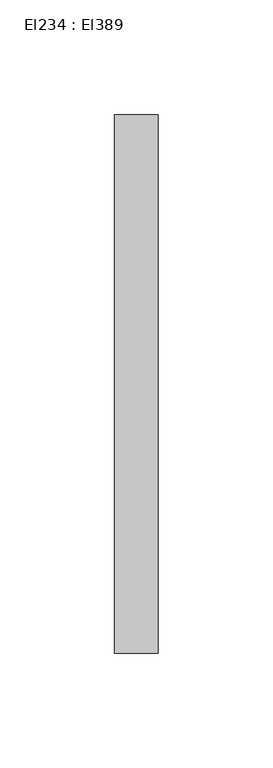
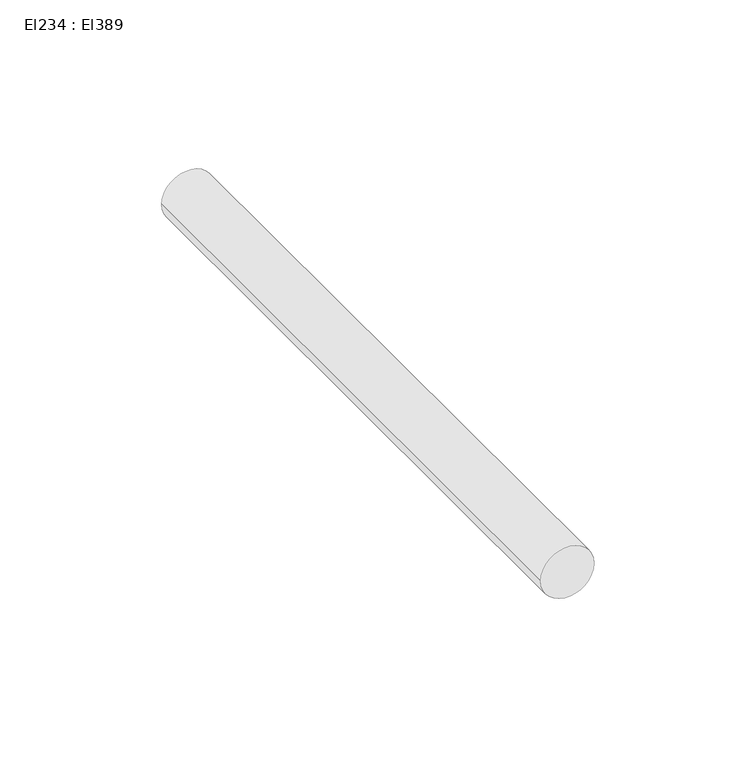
"""IFC4 building model written with IfcOpenShell, lengths in millimetres: cable carrier segment geometry, El234 : El389."""

import ifcopenshell
import ifcopenshell.guid

model = None  # the IFC model being written
_history = None  # IfcOwnerHistory: only IFC2X3 demands one
_inside = {}  # id of a spatial element -> (the spatial element, [elements in it])
_under = {}  # id of a project, library or spatial element -> (it, [spatial elements below it])
_declared = {}  # id of a project -> (the project, [libraries it declares])
_typed = {}  # id of a type object -> (the type object, [elements of that type])
_made_of = {}  # id of a material, layer set ... -> (it, [elements and type objects made of it])


def new_model(schema):
    """Start an empty IFC model of exactly this schema.

    Asked for "IFC4X3", IfcOpenShell would pick the latest addendum, in which some entities
    have other attributes; the version numbers below select the first issue.
    IFC2X3 requires an IfcOwnerHistory on every rooted entity: one is made here for all.
    """
    global model, _history
    if schema == "IFC4X3":
        model = ifcopenshell.file(schema_version=(4, 3, 0, 0))
    else:
        model = ifcopenshell.file(schema=schema)
    _inside.clear()
    _under.clear()
    _declared.clear()
    _typed.clear()
    _made_of.clear()
    _history = None
    if model.schema == "IFC2X3":
        org = make("IfcOrganization", Name="unknown")
        user = make(
            "IfcPersonAndOrganization",
            ThePerson=make("IfcPerson", FamilyName="unknown"),
            TheOrganization=org,
        )
        app = make(
            "IfcApplication",
            ApplicationDeveloper=org,
            Version="unknown",
            ApplicationFullName="unknown",
            ApplicationIdentifier="unknown",
        )
        _history = make(
            "IfcOwnerHistory",
            OwningUser=user,
            OwningApplication=app,
            ChangeAction="ADDED",
            CreationDate=0,
        )
    return model


def make(cls, **values):
    """One entity of the class cls with the attributes given. An attribute that is None is left unset."""
    return model.create_entity(
        cls, **{name: value for name, value in values.items() if value is not None}
    )


def rooted(cls, **values):
    """An entity with a GlobalId (a new one), such as an element, a storey or a relation."""
    return make(cls, GlobalId=ifcopenshell.guid.new(), OwnerHistory=_history, **values)


def si_unit(unit_type, name, prefix=None):
    """IfcSIUnit, for example si_unit("LENGTHUNIT", "METRE", prefix="MILLI")."""
    return make("IfcSIUnit", UnitType=unit_type, Prefix=prefix, Name=name)


def assignment(units):
    """IfcUnitAssignment: the units of a project."""
    return None if units is None else make("IfcUnitAssignment", Units=units)


def point(xyz):
    """IfcCartesianPoint."""
    return None if xyz is None else make("IfcCartesianPoint", Coordinates=xyz)


def direction(xyz):
    """IfcDirection."""
    return None if xyz is None else make("IfcDirection", DirectionRatios=xyz)


def frame(location, z_axis=None, x_axis=None):
    """IfcAxis2Placement3D, a coordinate frame: its origin and axes. An axis left out is left unset."""
    return make(
        "IfcAxis2Placement3D",
        Location=point(location),
        Axis=direction(z_axis),
        RefDirection=direction(x_axis),
    )


def frame_2d(location, x_axis=None):
    """IfcAxis2Placement2D, a coordinate frame in the plane: its origin and x axis."""
    return make(
        "IfcAxis2Placement2D", Location=point(location), RefDirection=direction(x_axis)
    )


def origin():
    """The frame at (0, 0, 0) with its axes left unset."""
    return frame((0.0, 0.0, 0.0))


def place(relative_to, where):
    """IfcLocalPlacement: puts the frame where relative to a parent placement (None: the world)."""
    return make(
        "IfcLocalPlacement", PlacementRelTo=relative_to, RelativePlacement=where
    )


def context(
    kind, dimensions, precision=None, world=None, true_north=None, identifier=None
):
    """IfcGeometricRepresentationContext, for example the 3D "Model" context."""
    return make(
        "IfcGeometricRepresentationContext",
        ContextIdentifier=identifier,
        ContextType=kind,
        CoordinateSpaceDimension=dimensions,
        Precision=precision,
        WorldCoordinateSystem=world,
        TrueNorth=true_north,
    )


def project(units=None, contexts=None):
    """IfcProject with its units and contexts."""
    return rooted(
        "IfcProject",
        Name="project",
        RepresentationContexts=contexts,
        UnitsInContext=assignment(units),
    )


def spatial(cls, under=None, at=None, **own):
    """A site, building, storey or space (cls), placed at a placement, below another one or the project."""
    s = rooted(cls, ObjectPlacement=at, **own)
    if under is not None:
        _under.setdefault(under.id(), (under, []))[1].append(s)
    return s


def circle_curve(where, radius):
    """IfcCircle in the frame where."""
    return make("IfcCircle", Position=where, Radius=radius)


def trimmed(basis, trim1, trim2, sense, master):
    """IfcTrimmedCurve: the piece of a basis curve between two trims."""
    return make(
        "IfcTrimmedCurve",
        BasisCurve=basis,
        Trim1=trim1,
        Trim2=trim2,
        SenseAgreement=sense,
        MasterRepresentation=master,
    )


def segment(curve, same_sense, transition):
    """IfcCompositeCurveSegment."""
    return make(
        "IfcCompositeCurveSegment",
        Transition=transition,
        SameSense=same_sense,
        ParentCurve=curve,
    )


def composite_curve(segments, self_intersect=None):
    """IfcCompositeCurve: segments joined end to end."""
    return make("IfcCompositeCurve", Segments=segments, SelfIntersect=self_intersect)


def outline(outer, holes=None, kind="AREA"):
    """IfcArbitraryClosedProfileDef: a profile drawn as a closed curve; with holes, ...WithVoids."""
    if holes is None:
        return make("IfcArbitraryClosedProfileDef", ProfileType=kind, OuterCurve=outer)
    return make(
        "IfcArbitraryProfileDefWithVoids",
        ProfileType=kind,
        OuterCurve=outer,
        InnerCurves=holes,
    )


def extrude(swept, where, along, depth):
    """IfcExtrudedAreaSolid: the profile swept, set in the frame where, extruded along a direction by depth."""
    return make(
        "IfcExtrudedAreaSolid",
        SweptArea=swept,
        Position=where,
        ExtrudedDirection=direction(along),
        Depth=depth,
    )


def shape(context_of_items, identifier, shape_type, items):
    """IfcShapeRepresentation: the items that make up one representation, for example the "Body"."""
    return make(
        "IfcShapeRepresentation",
        ContextOfItems=context_of_items,
        RepresentationIdentifier=identifier,
        RepresentationType=shape_type,
        Items=items,
    )


def source(mapping_origin, context_of_items, identifier, shape_type, items):
    """IfcRepresentationMap: a shape defined once, which mapped items show again and again."""
    return make(
        "IfcRepresentationMap",
        MappingOrigin=mapping_origin,
        MappedRepresentation=shape(context_of_items, identifier, shape_type, items),
    )


def transform(
    local_origin,
    x_axis=None,
    y_axis=None,
    z_axis=None,
    scale=None,
    scale2=None,
    scale3=None,
    uniform=True,
):
    """IfcCartesianTransformationOperator3D, or its non-uniform kind. x_axis, y_axis, z_axis: its Axis1, 2, 3."""
    if uniform:
        return make(
            "IfcCartesianTransformationOperator3D",
            Axis1=direction(x_axis),
            Axis2=direction(y_axis),
            LocalOrigin=point(local_origin),
            Scale=scale,
            Axis3=direction(z_axis),
        )
    return make(
        "IfcCartesianTransformationOperator3DnonUniform",
        Axis1=direction(x_axis),
        Axis2=direction(y_axis),
        LocalOrigin=point(local_origin),
        Scale=scale,
        Axis3=direction(z_axis),
        Scale2=scale2,
        Scale3=scale3,
    )


def mapped(mapping_source, mapping_target):
    """IfcMappedItem: shows the shape of a source again, moved by a transform."""
    return make(
        "IfcMappedItem", MappingSource=mapping_source, MappingTarget=mapping_target
    )


def made_of(thing, what):
    """Note that an element or type object is made of a material, layer set ...; save() writes the relation."""
    if what is not None:
        _made_of.setdefault(what.id(), (what, []))[1].append(thing)
    return thing


def element(
    cls,
    number,
    at=None,
    inside=None,
    cuts=None,
    type_object=None,
    material=None,
    context=None,
    identifier="Body",
    shape_type=None,
    held_by="IfcProductDefinitionShape",
    body=None,
    shapes=None,
    **own,
):
    """One element of the class cls, such as IfcWall. Its Tag is "e" and its number.

    at: its placement. inside: the storey or other place that contains it. cuts: it is an
    opening in that element (IfcRelVoidsElement). A single representation is given by context,
    identifier, shape_type and body (its items); several are given by shapes. held_by: the class
    of the entity that holds the representations. save() writes the other relations.
    """
    e = rooted(cls, Tag="e%d" % number, ObjectPlacement=at, **own)
    if body is not None:
        shapes = [shape(context, identifier, shape_type, body)]
    if shapes is not None:
        e.Representation = make(held_by, Representations=shapes)
    if inside is not None:
        _inside.setdefault(inside.id(), (inside, []))[1].append(e)
    if cuts is not None:
        rooted(
            "IfcRelVoidsElement", RelatingBuildingElement=cuts, RelatedOpeningElement=e
        )
    if type_object is not None:
        _typed.setdefault(type_object.id(), (type_object, []))[1].append(e)
    return made_of(e, material)


def aggregate(whole, parts):
    """IfcRelAggregates: a whole, such as a stair, and the parts it consists of."""
    return rooted("IfcRelAggregates", RelatingObject=whole, RelatedObjects=parts)


def save(model, path):
    """Write the relations noted so far, then the file.

    IfcRelAggregates (storeys below a building ...), IfcRelContainedInSpatialStructure (elements
    in a storey), IfcRelDefinesByType, IfcRelAssociatesMaterial and IfcRelDeclares: one each for
    every whole, place, type object, material and project.
    """
    for whole, parts in _under.values():
        aggregate(whole, parts)
    for where, things in _inside.values():
        rooted(
            "IfcRelContainedInSpatialStructure",
            RelatedElements=things,
            RelatingStructure=where,
        )
    for kind, things in _typed.values():
        rooted("IfcRelDefinesByType", RelatedObjects=things, RelatingType=kind)
    for what, things in _made_of.values():
        rooted("IfcRelAssociatesMaterial", RelatedObjects=things, RelatingMaterial=what)
    for by, libraries in _declared.values():
        rooted("IfcRelDeclares", RelatingContext=by, RelatedDefinitions=libraries)
    model.write(path)


def el234_el389_417e4c4e(model_context):
    return source(origin(), model_context, "Body", "SweptSolid", [
        extrude(outline(composite_curve([segment(trimmed(circle_curve(frame_2d((2700.0, 114.4746511)), 9.5), [point((2700.0, 104.9746511))], [point((2700.0, 123.9746511))], False, "CARTESIAN"), True, "CONTINUOUS"), segment(trimmed(circle_curve(frame_2d((2700.0, 114.4746511)), 9.5), [point((2700.0, 123.9746511))], [point((2700.0, 104.9746511))], False, "CARTESIAN"), True, "CONTINUOUS")], self_intersect=False)), frame((0.0, 19630.6351745, 0.0), z_axis=(0.0, 1.0, 0.0), x_axis=(0.0, 0.0, 1.0)), (0.0, 0.0, 1.0), 234.355),
    ])


if __name__ == "__main__":
    model = new_model("IFC4")
    model_context = context("Model", 3, world=origin())
    ifc_project = project(units=[si_unit("LENGTHUNIT", "METRE", prefix="MILLI")], contexts=[model_context])
    site = spatial("IfcSite", under=ifc_project)
    building = spatial("IfcBuilding", under=site)
    placement = place(None, origin())
    el234_el389_shape = el234_el389_417e4c4e(model_context)
    element("IfcCableCarrierSegment", 1, ObjectType="El234 : El389", at=placement, inside=building, context=model_context, shape_type="MappedRepresentation", body=[
        mapped(el234_el389_shape, transform((0.0, 0.0, 0.0), x_axis=(1.0, 0.0, 0.0), y_axis=(0.0, 1.0, 0.0), z_axis=(0.0, 0.0, 1.0))),
    ])
    save(model, "model.ifc")
